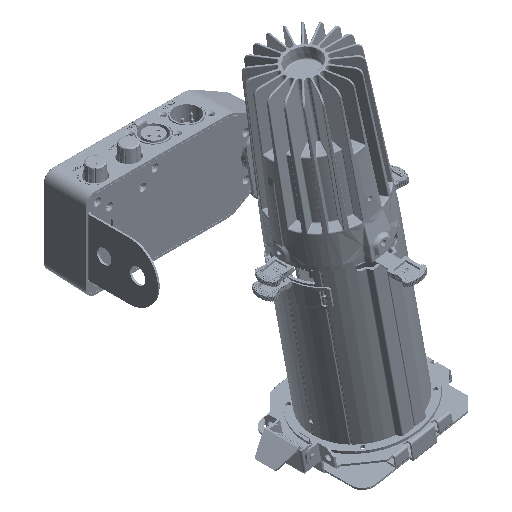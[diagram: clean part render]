
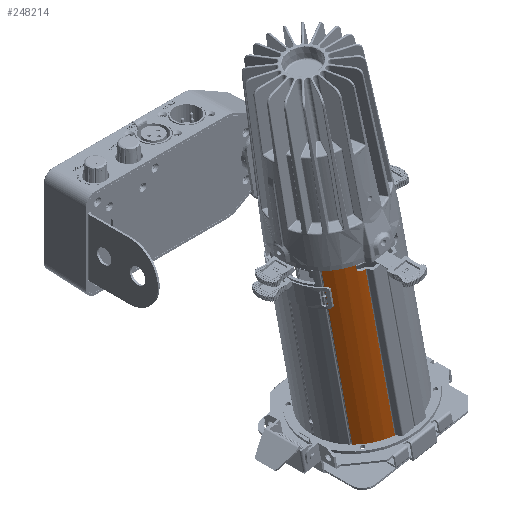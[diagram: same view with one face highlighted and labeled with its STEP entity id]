
A CAD part, isometric view. The second image highlights one B-rep face of the part: STEP entity #248214.
In plain terms, the highlighted cylindrical face has radius 41.5 mm (diameter 83 mm), a partial arc.
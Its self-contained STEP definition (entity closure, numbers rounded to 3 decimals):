
#10501 = CARTESIAN_POINT ( 'NONE',  ( -14.433, -63.272, 38.908 ) ) ;
#12064 = CARTESIAN_POINT ( 'NONE',  ( -14.928, -62.478, 38.722 ) ) ;
#13624 = CARTESIAN_POINT ( 'NONE',  ( -14.194, -64.5, 38.997 ) ) ;
#14412 = DIRECTION ( 'NONE',  ( -0.465, 0., 0.885 ) ) ;
#14990 = VECTOR ( 'NONE', #147515, 1000. ) ;
#22284 = ORIENTED_EDGE ( 'NONE', *, *, #26305, .F. ) ;
#23665 = CARTESIAN_POINT ( 'NONE',  ( -14.194, -67.5, 38.997 ) ) ;
#26305 = EDGE_CURVE ( 'NONE', #296919, #40889, #216724, .T. ) ;
#32479 = EDGE_CURVE ( 'NONE', #130624, #136808, #310953, .T. ) ;
#32547 = ORIENTED_EDGE ( 'NONE', *, *, #129024, .T. ) ;
#40587 = CARTESIAN_POINT ( 'NONE',  ( -14.826, -62.602, 38.761 ) ) ;
#40889 = VERTEX_POINT ( 'NONE', #302419 ) ;
#41405 = DIRECTION ( 'NONE',  ( 0., 1., 0. ) ) ;
#44363 = VERTEX_POINT ( 'NONE', #308551 ) ;
#48920 = CARTESIAN_POINT ( 'NONE',  ( -14.194, -67.5, 38.997 ) ) ;
#53572 = CARTESIAN_POINT ( 'NONE',  ( 0., -67.5, 0. ) ) ;
#60305 = CARTESIAN_POINT ( 'NONE',  ( 5.496, -47.175, 41.134 ) ) ;
#66312 = DIRECTION ( 'NONE',  ( 0., 1., 0. ) ) ;
#71989 = EDGE_CURVE ( 'NONE', #287543, #188838, #301484, .T. ) ;
#73397 = DIRECTION ( 'NONE',  ( 0.147, 0., 0.989 ) ) ;
#78489 = AXIS2_PLACEMENT_3D ( 'NONE', #98792, #295592, #73397 ) ;
#81096 = VERTEX_POINT ( 'NONE', #143947 ) ;
#83357 = EDGE_CURVE ( 'NONE', #287543, #81096, #113238, .T. ) ;
#85101 = CARTESIAN_POINT ( 'NONE',  ( -15.015, -62.38, 38.689 ) ) ;
#87280 = CARTESIAN_POINT ( 'NONE',  ( 5.496, -47., 41.134 ) ) ;
#87399 = ORIENTED_EDGE ( 'NONE', *, *, #130756, .F. ) ;
#87665 = B_SPLINE_CURVE_WITH_KNOTS ( 'NONE', 3,
 ( #122093, #98275, #273929, #227839, #251657, #195067 ),
 .UNSPECIFIED., .F., .F.,
 ( 4, 2, 4 ),
 ( 0., 0.5, 1. ),
 .UNSPECIFIED. ) ;
#88263 = CARTESIAN_POINT ( 'NONE',  ( -14.697, -62.78, 38.81 ) ) ;
#91437 = CARTESIAN_POINT ( 'NONE',  ( -15.613, -61.861, 38.452 ) ) ;
#94137 = DIRECTION ( 'NONE',  ( 0., -1., 0. ) ) ;
#96121 = CARTESIAN_POINT ( 'NONE',  ( -16.976, -61.5, 37.869 ) ) ;
#98275 = CARTESIAN_POINT ( 'NONE',  ( 5.895, -46.155, 41.08 ) ) ;
#98792 = CARTESIAN_POINT ( 'NONE',  ( 0., 73.5, 0. ) ) ;
#105812 = ORIENTED_EDGE ( 'NONE', *, *, #83357, .F. ) ;
#107384 = CARTESIAN_POINT ( 'NONE',  ( -14.988, -62.409, 38.699 ) ) ;
#108931 = CARTESIAN_POINT ( 'NONE',  ( -15.017, -62.378, 38.688 ) ) ;
#111075 = CARTESIAN_POINT ( 'NONE',  ( 6.109, -47.971, 41.048 ) ) ;
#113238 = LINE ( 'NONE', #263970, #164570 ) ;
#122093 = CARTESIAN_POINT ( 'NONE',  ( 6.109, -46.029, 41.048 ) ) ;
#128672 = EDGE_LOOP ( 'NONE', ( #87399, #105812, #176951, #228648, #32547, #221174, #284506, #197058, #22284, #273263 ) ) ;
#129024 = EDGE_CURVE ( 'NONE', #301199, #44363, #256320, .T. ) ;
#130398 = EDGE_CURVE ( 'NONE', #130624, #40889, #205749, .T. ) ;
#130624 = VERTEX_POINT ( 'NONE', #23665 ) ;
#130756 = EDGE_CURVE ( 'NONE', #81096, #134002, #87665, .T. ) ;
#134002 = VERTEX_POINT ( 'NONE', #143488 ) ;
#136447 = CARTESIAN_POINT ( 'NONE',  ( 5.895, -47.845, 41.08 ) ) ;
#136808 = VERTEX_POINT ( 'NONE', #168869 ) ;
#139017 = CARTESIAN_POINT ( 'NONE',  ( -16.285, -61.57, 38.172 ) ) ;
#140882 = CARTESIAN_POINT ( 'NONE',  ( 0., -67.5, 0. ) ) ;
#143488 = CARTESIAN_POINT ( 'NONE',  ( 5.496, -47., 41.134 ) ) ;
#143947 = CARTESIAN_POINT ( 'NONE',  ( 6.109, -46.029, 41.048 ) ) ;
#147515 = DIRECTION ( 'NONE',  ( 0., -1., 0. ) ) ;
#150414 = DIRECTION ( 'NONE',  ( -0.342, 0., 0.94 ) ) ;
#155222 = EDGE_CURVE ( 'NONE', #188838, #301199, #217440, .T. ) ;
#159705 = CARTESIAN_POINT ( 'NONE',  ( -14.868, -62.549, 38.745 ) ) ;
#160361 = B_SPLINE_CURVE_WITH_KNOTS ( 'NONE', 3,
 ( #87280, #60305, #301606, #182489, #136447, #111075 ),
 .UNSPECIFIED., .F., .F.,
 ( 4, 2, 4 ),
 ( 0., 0.5, 1. ),
 .UNSPECIFIED. ) ;
#164570 = VECTOR ( 'NONE', #94137, 1000. ) ;
#164757 = B_SPLINE_CURVE_WITH_KNOTS ( 'NONE', 3,
 ( #13624, #229586, #208870, #185051, #10501, #207299, #88263, #40587, #159705, #12064, #302609, #281924, #107384, #204170, #180361, #85101, #108931, #278781, #235853, #91437, #139017, #285085, #96121 ),
 .UNSPECIFIED., .F., .F.,
 ( 4, 2, 2, 2, 2, 2, 1, 1, 1, 2, 2, 2, 4 ),
 ( 0., 0.125, 0.25, 0.375, 0.438, 0.469, 0.484, 0.492, 0.496, 0.498, 0.5, 0.75, 1. ),
 .UNSPECIFIED. ) ;
#167495 = DIRECTION ( 'NONE',  ( 0., -1., 0. ) ) ;
#168869 = CARTESIAN_POINT ( 'NONE',  ( -14.194, -64.5, 38.997 ) ) ;
#175487 = CARTESIAN_POINT ( 'NONE',  ( 6.109, -47.971, 41.048 ) ) ;
#176951 = ORIENTED_EDGE ( 'NONE', *, *, #71989, .T. ) ;
#180361 = CARTESIAN_POINT ( 'NONE',  ( -15.012, -62.384, 38.69 ) ) ;
#182489 = CARTESIAN_POINT ( 'NONE',  ( 5.741, -47.683, 41.101 ) ) ;
#185051 = CARTESIAN_POINT ( 'NONE',  ( -14.353, -63.476, 38.938 ) ) ;
#188838 = VERTEX_POINT ( 'NONE', #291599 ) ;
#195067 = CARTESIAN_POINT ( 'NONE',  ( 5.496, -47., 41.134 ) ) ;
#195384 = AXIS2_PLACEMENT_3D ( 'NONE', #231949, #41405, #14412 ) ;
#197058 = ORIENTED_EDGE ( 'NONE', *, *, #130398, .T. ) ;
#204170 = CARTESIAN_POINT ( 'NONE',  ( -15.004, -62.392, 38.693 ) ) ;
#205749 = CIRCLE ( 'NONE', #246375, 41.5 ) ;
#207299 = CARTESIAN_POINT ( 'NONE',  ( -14.606, -62.925, 38.844 ) ) ;
#207934 = EDGE_CURVE ( 'NONE', #136808, #44363, #164757, .T. ) ;
#208870 = CARTESIAN_POINT ( 'NONE',  ( -14.233, -63.945, 38.983 ) ) ;
#215851 = CARTESIAN_POINT ( 'NONE',  ( -19.315, 73.5, 36.731 ) ) ;
#216724 = LINE ( 'NONE', #237383, #286240 ) ;
#217440 = LINE ( 'NONE', #215851, #14990 ) ;
#221174 = ORIENTED_EDGE ( 'NONE', *, *, #207934, .F. ) ;
#227839 = CARTESIAN_POINT ( 'NONE',  ( 5.545, -46.646, 41.128 ) ) ;
#228648 = ORIENTED_EDGE ( 'NONE', *, *, #155222, .T. ) ;
#229586 = CARTESIAN_POINT ( 'NONE',  ( -14.194, -64.211, 38.997 ) ) ;
#230537 = EDGE_CURVE ( 'NONE', #134002, #296919, #160361, .T. ) ;
#231949 = CARTESIAN_POINT ( 'NONE',  ( 0., -61.5, 0. ) ) ;
#235853 = CARTESIAN_POINT ( 'NONE',  ( -15.292, -62.084, 38.581 ) ) ;
#237383 = CARTESIAN_POINT ( 'NONE',  ( 6.109, -47.971, 41.048 ) ) ;
#239318 = CARTESIAN_POINT ( 'NONE',  ( -19.315, -61.5, 36.731 ) ) ;
#239470 = DIRECTION ( 'NONE',  ( 0., 1., 0. ) ) ;
#246375 = AXIS2_PLACEMENT_3D ( 'NONE', #53572, #271058, #150414 ) ;
#248214 = ADVANCED_FACE ( 'NONE', ( #309222 ), #312358, .T. ) ;
#251657 = CARTESIAN_POINT ( 'NONE',  ( 5.496, -46.825, 41.134 ) ) ;
#256320 = CIRCLE ( 'NONE', #195384, 41.5 ) ;
#261558 = DIRECTION ( 'NONE',  ( 1., 0., 0. ) ) ;
#263970 = CARTESIAN_POINT ( 'NONE',  ( 6.109, 73.5, 41.048 ) ) ;
#271058 = DIRECTION ( 'NONE',  ( 0., 1., 0. ) ) ;
#273263 = ORIENTED_EDGE ( 'NONE', *, *, #230537, .F. ) ;
#273929 = CARTESIAN_POINT ( 'NONE',  ( 5.741, -46.317, 41.101 ) ) ;
#278781 = CARTESIAN_POINT ( 'NONE',  ( -15.017, -62.378, 38.688 ) ) ;
#281924 = CARTESIAN_POINT ( 'NONE',  ( -14.975, -62.424, 38.704 ) ) ;
#284506 = ORIENTED_EDGE ( 'NONE', *, *, #32479, .F. ) ;
#285085 = CARTESIAN_POINT ( 'NONE',  ( -16.637, -61.5, 38.021 ) ) ;
#286240 = VECTOR ( 'NONE', #167495, 1000. ) ;
#287543 = VERTEX_POINT ( 'NONE', #295500 ) ;
#291599 = CARTESIAN_POINT ( 'NONE',  ( -19.315, 73.5, 36.731 ) ) ;
#295500 = CARTESIAN_POINT ( 'NONE',  ( 6.109, 73.5, 41.048 ) ) ;
#295592 = DIRECTION ( 'NONE',  ( 0., -1., 0. ) ) ;
#296919 = VERTEX_POINT ( 'NONE', #175487 ) ;
#301199 = VERTEX_POINT ( 'NONE', #239318 ) ;
#301484 = CIRCLE ( 'NONE', #78489, 41.5 ) ;
#301606 = CARTESIAN_POINT ( 'NONE',  ( 5.546, -47.355, 41.128 ) ) ;
#302419 = CARTESIAN_POINT ( 'NONE',  ( 6.109, -67.5, 41.048 ) ) ;
#302502 = VECTOR ( 'NONE', #239470, 1000. ) ;
#302609 = CARTESIAN_POINT ( 'NONE',  ( -14.947, -62.456, 38.715 ) ) ;
#308046 = AXIS2_PLACEMENT_3D ( 'NONE', #140882, #66312, #261558 ) ;
#308551 = CARTESIAN_POINT ( 'NONE',  ( -16.976, -61.5, 37.869 ) ) ;
#309222 = FACE_OUTER_BOUND ( 'NONE', #128672, .T. ) ;
#310953 = LINE ( 'NONE', #48920, #302502 ) ;
#312358 = CYLINDRICAL_SURFACE ( 'NONE', #308046, 41.5 ) ;
